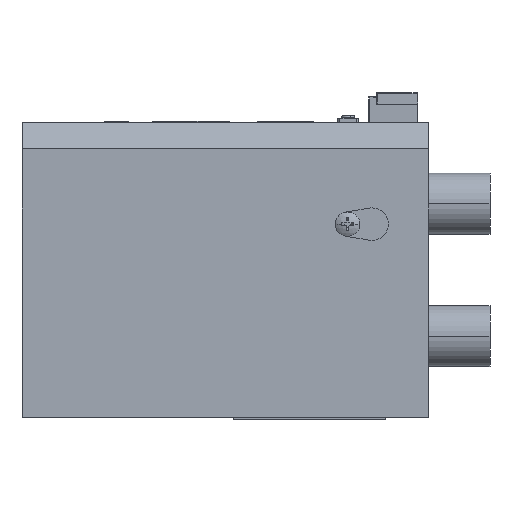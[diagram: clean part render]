
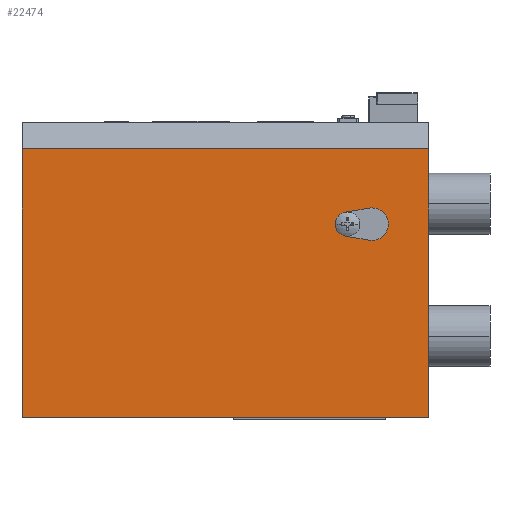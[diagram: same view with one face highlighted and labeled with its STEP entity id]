
A CAD part, left-side view. The second image highlights one B-rep face of the part: STEP entity #22474.
In plain terms, the highlighted planar face has unit normal (-1, 0, 0).
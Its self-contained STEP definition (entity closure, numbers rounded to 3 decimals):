
#614 = CARTESIAN_POINT ( 'NONE',  ( -132., -100., 59.5 ) ) ;
#1447 = EDGE_CURVE ( 'NONE', #43789, #39192, #50320, .T. ) ;
#3274 = DIRECTION ( 'NONE',  ( 0., 1., 0. ) ) ;
#5710 = VERTEX_POINT ( 'NONE', #15715 ) ;
#6116 = LINE ( 'NONE', #34235, #43033 ) ;
#6148 = DIRECTION ( 'NONE',  ( 0., 0., -1. ) ) ;
#6404 = CARTESIAN_POINT ( 'NONE',  ( -132., 100., -72.5 ) ) ;
#7428 = ORIENTED_EDGE ( 'NONE', *, *, #1447, .T. ) ;
#7743 = CARTESIAN_POINT ( 'NONE',  ( -132., -100., 72.5 ) ) ;
#7950 = DIRECTION ( 'NONE',  ( 1., 0., 0. ) ) ;
#8647 = DIRECTION ( 'NONE',  ( 1., 0., 0. ) ) ;
#9078 = DIRECTION ( 'NONE',  ( 0., 1., 0. ) ) ;
#9649 = ORIENTED_EDGE ( 'NONE', *, *, #45535, .F. ) ;
#10904 = EDGE_LOOP ( 'NONE', ( #9649, #13977, #44185, #7428 ) ) ;
#11500 = EDGE_CURVE ( 'NONE', #36758, #5710, #6116, .T. ) ;
#12647 = VECTOR ( 'NONE', #43363, 1000. ) ;
#13977 = ORIENTED_EDGE ( 'NONE', *, *, #11500, .T. ) ;
#14815 = CIRCLE ( 'NONE', #28949, 3. ) ;
#14956 = LINE ( 'NONE', #7743, #39746 ) ;
#15715 = CARTESIAN_POINT ( 'NONE',  ( -132., 100., 59.5 ) ) ;
#18341 = AXIS2_PLACEMENT_3D ( 'NONE', #49188, #7950, #23270 ) ;
#19152 = VECTOR ( 'NONE', #6148, 1000. ) ;
#21048 = VERTEX_POINT ( 'NONE', #37277 ) ;
#21258 = CIRCLE ( 'NONE', #18341, 3. ) ;
#22474 = ADVANCED_FACE ( 'NONE', ( #24959, #59381 ), #25068, .F. ) ;
#23270 = DIRECTION ( 'NONE',  ( 0., 1., 0. ) ) ;
#24959 = FACE_BOUND ( 'NONE', #59242, .T. ) ;
#25068 = PLANE ( 'NONE',  #64615 ) ;
#25568 = EDGE_CURVE ( 'NONE', #55600, #21048, #21258, .T. ) ;
#25859 = CARTESIAN_POINT ( 'NONE',  ( -132., -57., 22.5 ) ) ;
#26401 = CARTESIAN_POINT ( 'NONE',  ( -132., -100., -72.5 ) ) ;
#26601 = CARTESIAN_POINT ( 'NONE',  ( -132., 100., 72.5 ) ) ;
#28835 = LINE ( 'NONE', #26601, #19152 ) ;
#28949 = AXIS2_PLACEMENT_3D ( 'NONE', #29092, #8647, #3274 ) ;
#29092 = CARTESIAN_POINT ( 'NONE',  ( -132., -60., 22.5 ) ) ;
#34235 = CARTESIAN_POINT ( 'NONE',  ( -132., 100., 59.5 ) ) ;
#35063 = DIRECTION ( 'NONE',  ( 1., 0., 0. ) ) ;
#36758 = VERTEX_POINT ( 'NONE', #614 ) ;
#37277 = CARTESIAN_POINT ( 'NONE',  ( -132., -63., 22.5 ) ) ;
#39192 = VERTEX_POINT ( 'NONE', #26401 ) ;
#39720 = EDGE_CURVE ( 'NONE', #21048, #55600, #14815, .T. ) ;
#39746 = VECTOR ( 'NONE', #64259, 1000. ) ;
#43033 = VECTOR ( 'NONE', #54902, 1000. ) ;
#43363 = DIRECTION ( 'NONE',  ( 0., -1., 0. ) ) ;
#43789 = VERTEX_POINT ( 'NONE', #45230 ) ;
#44185 = ORIENTED_EDGE ( 'NONE', *, *, #57450, .T. ) ;
#45230 = CARTESIAN_POINT ( 'NONE',  ( -132., 100., -72.5 ) ) ;
#45535 = EDGE_CURVE ( 'NONE', #36758, #39192, #14956, .T. ) ;
#49188 = CARTESIAN_POINT ( 'NONE',  ( -132., -60., 22.5 ) ) ;
#50320 = LINE ( 'NONE', #6404, #12647 ) ;
#54827 = ORIENTED_EDGE ( 'NONE', *, *, #39720, .T. ) ;
#54902 = DIRECTION ( 'NONE',  ( 0., 1., 0. ) ) ;
#55600 = VERTEX_POINT ( 'NONE', #25859 ) ;
#57450 = EDGE_CURVE ( 'NONE', #5710, #43789, #28835, .T. ) ;
#59242 = EDGE_LOOP ( 'NONE', ( #59673, #54827 ) ) ;
#59381 = FACE_OUTER_BOUND ( 'NONE', #10904, .T. ) ;
#59673 = ORIENTED_EDGE ( 'NONE', *, *, #25568, .T. ) ;
#60659 = CARTESIAN_POINT ( 'NONE',  ( -132., 100., 72.5 ) ) ;
#64259 = DIRECTION ( 'NONE',  ( 0., 0., -1. ) ) ;
#64615 = AXIS2_PLACEMENT_3D ( 'NONE', #60659, #35063, #9078 ) ;
